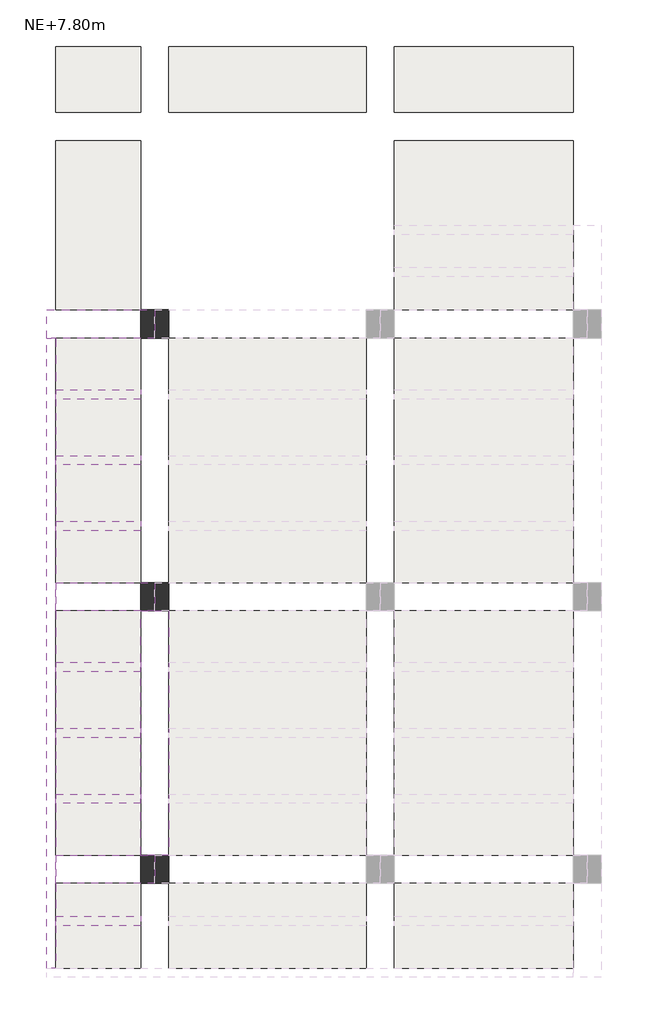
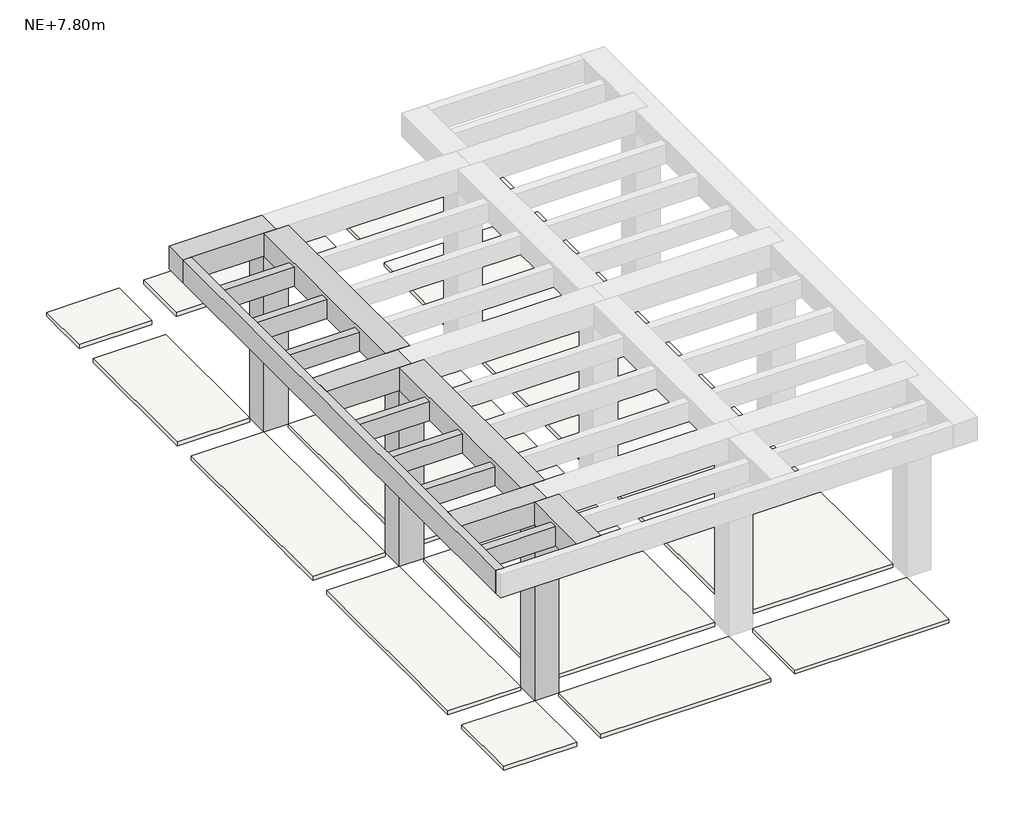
# One storey, part 1 of 2: 12 beams, 3 columns, 1 slab.
"""IFC4 building model written with IfcOpenShell, lengths in millimetres."""

from ifc_helpers import new_model, si_unit, frame, origin, place, context, project, spatial, polyline, outline, extrude, faceted_brep, element, save

model = new_model("IFC4")

# Units and contexts
model_context = context("Model", 3, world=origin())
ifc_project = project(units=[si_unit("LENGTHUNIT", "METRE", prefix="MILLI")], contexts=[model_context])

# Site, building, storey
site = spatial("IfcSite", under=ifc_project)
building = spatial("IfcBuilding", under=site)
storey = spatial("IfcBuildingStorey", under=building, Name="NE+7.80m", Elevation=7800.0)

# Beams
placement = place(None, origin())
element("IfcBeam", 1, ObjectType="Hormigón-Viga rectangular : VA (0.30x0.30m)", at=placement, inside=storey, context=model_context, shape_type="Brep", body=[
    faceted_brep([(-897.6811082, -1337.1867862, 10400.0), (-897.6811082, -1037.1867862, 10400.0), (-2047.6811082, -1037.1867862, 10400.0), (-2047.6811082, -1337.1867862, 10400.0), (-1947.6811082, -1337.1867862, 10400.0), (-1047.6811082, -1337.1867862, 10400.0), (-897.6811082, -1037.1867862, 10100.0), (-2047.6811082, -1037.1867862, 10100.0), (-897.6811082, -1337.1867862, 10100.0), (-1047.6811082, -1337.1867862, 10100.0), (-1947.6811082, -1337.1867862, 10100.0), (-2047.6811082, -1337.1867862, 10100.0)], [[[0, 1, 2, 3, 4, 5]], [[1, 6, 7, 2]], [[6, 8, 9, 10, 11, 7]], [[8, 0, 5, 4, 3, 11, 10, 9]], [[0, 8, 6, 1]], [[3, 2, 7, 11]]]),
])
element("IfcBeam", 2, ObjectType="Hormigón-Viga rectangular : VA (0.30x0.30m)", at=placement, inside=storey, context=model_context, shape_type="Brep", body=[
    faceted_brep([(-897.6811082, -4237.1867862, 10400.0), (-897.6811082, -3937.1867862, 10400.0), (-1047.6811082, -3937.1867862, 10400.0), (-1947.6811082, -3937.1867862, 10400.0), (-1947.6811082, -4237.1867862, 10400.0), (-1047.6811082, -4237.1867862, 10400.0), (-897.6811082, -3937.1867862, 10100.0), (-1047.6811082, -3937.1867862, 10100.0), (-1947.6811082, -3937.1867862, 10100.0), (-1947.6811082, -3937.1867862, 10350.0), (-897.6811082, -4237.1867862, 10100.0), (-1047.6811082, -4237.1867862, 10100.0), (-1947.6811082, -4237.1867862, 10100.0), (-1947.6811082, -4237.1867862, 10350.0)], [[[0, 1, 2, 3, 4, 5]], [[1, 6, 7, 8, 9, 3, 2]], [[6, 10, 11, 12, 8, 7]], [[10, 0, 5, 4, 13, 12, 11]], [[0, 10, 6, 1]], [[4, 3, 9, 8, 12, 13]]]),
])
element("IfcBeam", 3, ObjectType="Hormigón-Viga rectangular : VA (0.30x0.30m)", at=placement, inside=storey, context=model_context, shape_type="Brep", body=[
    faceted_brep([(-897.6811082, -7137.1867862, 10400.0), (-897.6811082, -6837.1867862, 10400.0), (-1047.6811082, -6837.1867862, 10400.0), (-1947.6811082, -6837.1867862, 10400.0), (-1947.6811082, -7137.1867862, 10400.0), (-1047.6811082, -7137.1867862, 10400.0), (-897.6811082, -6837.1867862, 10100.0), (-1047.6811082, -6837.1867862, 10100.0), (-1947.6811082, -6837.1867862, 10100.0), (-1947.6811082, -6837.1867862, 10350.0), (-897.6811082, -7137.1867862, 10100.0), (-1047.6811082, -7137.1867862, 10100.0), (-1947.6811082, -7137.1867862, 10100.0), (-1947.6811082, -7137.1867862, 10350.0)], [[[0, 1, 2, 3, 4, 5]], [[1, 6, 7, 8, 9, 3, 2]], [[6, 10, 11, 12, 8, 7]], [[10, 0, 5, 4, 13, 12, 11]], [[0, 10, 6, 1]], [[4, 3, 9, 8, 12, 13]]]),
])
element("IfcBeam", 4, ObjectType="Hormigón-Viga rectangular : VA (0.30x0.30m)", at=placement, inside=storey, context=model_context, shape_type="Brep", body=[
    faceted_brep([(-747.6811082, -7137.1867862, 10400.0), (-897.6811082, -7137.1867862, 10400.0), (-1047.6811082, -7137.1867862, 10400.0), (-1047.6811082, -8037.1867862, 10400.0), (-747.6811082, -8037.1867862, 10400.0), (-747.6811082, -8037.1867862, 10350.0), (-747.6811082, -8037.1867862, 10100.0), (-747.6811082, -7587.1867862, 10100.0), (-747.6811082, -7487.1867862, 10100.0), (-747.6811082, -7137.1867862, 10100.0), (-747.6811082, -7137.1867862, 10350.0), (-1047.6811082, -7137.1867862, 10100.0), (-897.6811082, -7137.1867862, 10100.0), (-1047.6811082, -8037.1867862, 10100.0), (-1047.6811082, -7587.1867862, 10100.0), (-1047.6811082, -7487.1867862, 10100.0), (-1047.6811082, -7137.1867862, 10350.0), (-1047.6811082, -8037.1867862, 10350.0)], [[[0, 1, 2, 3, 4]], [[0, 4, 5, 6, 7, 8, 9, 10]], [[11, 12, 9, 8, 7, 6, 13, 14, 15]], [[3, 2, 16, 11, 15, 14, 13, 17]], [[2, 1, 0, 10, 9, 12, 11, 16]], [[4, 3, 17, 13, 6, 5]]]),
    faceted_brep([(-1047.6811082, -1337.1867862, 10400.0), (-897.6811082, -1337.1867862, 10400.0), (-747.6811082, -1337.1867862, 10400.0), (-747.6811082, -1337.1867862, 10350.0), (-747.6811082, -1337.1867862, 10100.0), (-897.6811082, -1337.1867862, 10100.0), (-1047.6811082, -1337.1867862, 10100.0), (-1047.6811082, -1337.1867862, 10350.0), (-747.6811082, -3937.1867862, 10400.0), (-897.6811082, -3937.1867862, 10400.0), (-1047.6811082, -3937.1867862, 10400.0), (-1047.6811082, -3937.1867862, 10350.0), (-1047.6811082, -3937.1867862, 10100.0), (-897.6811082, -3937.1867862, 10100.0), (-747.6811082, -3937.1867862, 10100.0), (-747.6811082, -3937.1867862, 10350.0), (-747.6811082, -3387.1867862, 10100.0), (-747.6811082, -3287.1867862, 10100.0), (-747.6811082, -2687.1867862, 10100.0), (-747.6811082, -2587.1867862, 10100.0), (-747.6811082, -1987.1867862, 10100.0), (-747.6811082, -1887.1867862, 10100.0), (-1047.6811082, -3387.1867862, 10100.0), (-1047.6811082, -3287.1867862, 10100.0), (-1047.6811082, -2687.1867862, 10100.0), (-1047.6811082, -2587.1867862, 10100.0), (-1047.6811082, -1987.1867862, 10100.0), (-1047.6811082, -1887.1867862, 10100.0)], [[[0, 1, 2, 3, 4, 5, 6, 7]], [[8, 9, 10, 11, 12, 13, 14, 15]], [[2, 8, 15, 14, 16, 17, 18, 19, 20, 21, 4, 3]], [[2, 1, 0, 10, 9, 8]], [[6, 5, 4, 21, 20, 19, 18, 17, 16, 14, 13, 12, 22, 23, 24, 25, 26, 27]], [[10, 0, 7, 6, 27, 26, 25, 24, 23, 22, 12, 11]]]),
    faceted_brep([(-1047.6811082, -4237.1867862, 10400.0), (-897.6811082, -4237.1867862, 10400.0), (-747.6811082, -4237.1867862, 10400.0), (-747.6811082, -4237.1867862, 10350.0), (-747.6811082, -4237.1867862, 10100.0), (-897.6811082, -4237.1867862, 10100.0), (-1047.6811082, -4237.1867862, 10100.0), (-1047.6811082, -4237.1867862, 10350.0), (-747.6811082, -6837.1867862, 10400.0), (-897.6811082, -6837.1867862, 10400.0), (-1047.6811082, -6837.1867862, 10400.0), (-1047.6811082, -6837.1867862, 10350.0), (-1047.6811082, -6837.1867862, 10100.0), (-897.6811082, -6837.1867862, 10100.0), (-747.6811082, -6837.1867862, 10100.0), (-747.6811082, -6837.1867862, 10350.0), (-747.6811082, -6287.1867862, 10100.0), (-747.6811082, -6187.1867862, 10100.0), (-747.6811082, -5587.1867862, 10100.0), (-747.6811082, -5487.1867862, 10100.0), (-747.6811082, -4887.1867862, 10100.0), (-747.6811082, -4787.1867862, 10100.0), (-1047.6811082, -6287.1867862, 10100.0), (-1047.6811082, -6187.1867862, 10100.0), (-1047.6811082, -5587.1867862, 10100.0), (-1047.6811082, -5487.1867862, 10100.0), (-1047.6811082, -4887.1867862, 10100.0), (-1047.6811082, -4787.1867862, 10100.0)], [[[0, 1, 2, 3, 4, 5, 6, 7]], [[8, 9, 10, 11, 12, 13, 14, 15]], [[2, 8, 15, 14, 16, 17, 18, 19, 20, 21, 4, 3]], [[2, 1, 0, 10, 9, 8]], [[6, 5, 4, 21, 20, 19, 18, 17, 16, 14, 13, 12, 22, 23, 24, 25, 26, 27]], [[10, 0, 7, 6, 27, 26, 25, 24, 23, 22, 12, 11]]]),
])
element("IfcBeam", 5, ObjectType="Hormigón-Viga rectangular : VB (0.10x0.30m)", at=placement, inside=storey, context=model_context, shape_type="Brep", body=[
    faceted_brep([(-1947.6811082, -1337.1867862, 10400.0), (-2047.6811082, -1337.1867862, 10400.0), (-2047.6811082, -8037.1867862, 10400.0), (-1947.6811082, -8037.1867862, 10400.0), (-1947.6811082, -7137.1867862, 10400.0), (-1947.6811082, -6837.1867862, 10400.0), (-1947.6811082, -4237.1867862, 10400.0), (-1947.6811082, -3937.1867862, 10400.0), (-1947.6811082, -1337.1867862, 10100.0), (-1947.6811082, -1337.1867862, 10350.0), (-1947.6811082, -8037.1867862, 10350.0), (-1947.6811082, -8037.1867862, 10100.0), (-1947.6811082, -7587.1867862, 10100.0), (-1947.6811082, -7487.1867862, 10100.0), (-1947.6811082, -7137.1867862, 10100.0), (-1947.6811082, -6837.1867862, 10100.0), (-1947.6811082, -6287.1867862, 10100.0), (-1947.6811082, -6187.1867862, 10100.0), (-1947.6811082, -5587.1867862, 10100.0), (-1947.6811082, -5487.1867862, 10100.0), (-1947.6811082, -4887.1867862, 10100.0), (-1947.6811082, -4787.1867862, 10100.0), (-1947.6811082, -4237.1867862, 10100.0), (-1947.6811082, -3937.1867862, 10100.0), (-1947.6811082, -3387.1867862, 10100.0), (-1947.6811082, -3287.1867862, 10100.0), (-1947.6811082, -2687.1867862, 10100.0), (-1947.6811082, -2587.1867862, 10100.0), (-1947.6811082, -1987.1867862, 10100.0), (-1947.6811082, -1887.1867862, 10100.0), (-2047.6811082, -1337.1867862, 10100.0), (-2047.6811082, -8037.1867862, 10100.0)], [[[0, 1, 2, 3, 4, 5, 6, 7]], [[8, 9, 0, 7, 6, 5, 4, 3, 10, 11, 12, 13, 14, 15, 16, 17, 18, 19, 20, 21, 22, 23, 24, 25, 26, 27, 28, 29]], [[30, 8, 29, 28, 27, 26, 25, 24, 23, 22, 21, 20, 19, 18, 17, 16, 15, 14, 13, 12, 11, 31]], [[1, 30, 31, 2]], [[1, 0, 9, 8, 30]], [[3, 2, 31, 11, 10]]]),
])
element("IfcBeam", 6, ObjectType="Hormigón-Viga rectangular : VT (0.10x0.30m)", at=placement, inside=storey, context=model_context, shape_type="SweptSolid", body=[
    extrude(outline(polyline([(-1047.6811082, -6187.1867862), (-1047.6811082, -6287.1867862), (-1947.6811082, -6287.1867862), (-1947.6811082, -6187.1867862), (-1047.6811082, -6187.1867862)])), frame((0.0, 0.0, 10100.0), z_axis=(0.0, 0.0, 1.0), x_axis=(1.0, 0.0, 0.0)), (0.0, 0.0, 1.0), 250.0),
])
element("IfcBeam", 7, ObjectType="Hormigón-Viga rectangular : VT (0.10x0.30m)", at=placement, inside=storey, context=model_context, shape_type="SweptSolid", body=[
    extrude(outline(polyline([(-1047.6811082, -5487.1867862), (-1047.6811082, -5587.1867862), (-1947.6811082, -5587.1867862), (-1947.6811082, -5487.1867862), (-1047.6811082, -5487.1867862)])), frame((0.0, 0.0, 10100.0), z_axis=(0.0, 0.0, 1.0), x_axis=(1.0, 0.0, 0.0)), (0.0, 0.0, 1.0), 250.0),
])
element("IfcBeam", 8, ObjectType="Hormigón-Viga rectangular : VT (0.10x0.30m)", at=placement, inside=storey, context=model_context, shape_type="SweptSolid", body=[
    extrude(outline(polyline([(-1047.6811082, -4787.1867862), (-1047.6811082, -4887.1867862), (-1947.6811082, -4887.1867862), (-1947.6811082, -4787.1867862), (-1047.6811082, -4787.1867862)])), frame((0.0, 0.0, 10100.0), z_axis=(0.0, 0.0, 1.0), x_axis=(1.0, 0.0, 0.0)), (0.0, 0.0, 1.0), 250.0),
])
element("IfcBeam", 9, ObjectType="Hormigón-Viga rectangular : VT (0.10x0.30m)", at=placement, inside=storey, context=model_context, shape_type="SweptSolid", body=[
    extrude(outline(polyline([(-1047.6811082, -3287.1867862), (-1047.6811082, -3387.1867862), (-1947.6811082, -3387.1867862), (-1947.6811082, -3287.1867862), (-1047.6811082, -3287.1867862)])), frame((0.0, 0.0, 10100.0), z_axis=(0.0, 0.0, 1.0), x_axis=(1.0, 0.0, 0.0)), (0.0, 0.0, 1.0), 250.0),
])
element("IfcBeam", 10, ObjectType="Hormigón-Viga rectangular : VT (0.10x0.30m)", at=placement, inside=storey, context=model_context, shape_type="SweptSolid", body=[
    extrude(outline(polyline([(-1047.6811082, -2587.1867862), (-1047.6811082, -2687.1867862), (-1947.6811082, -2687.1867862), (-1947.6811082, -2587.1867862), (-1047.6811082, -2587.1867862)])), frame((0.0, 0.0, 10100.0), z_axis=(0.0, 0.0, 1.0), x_axis=(1.0, 0.0, 0.0)), (0.0, 0.0, 1.0), 250.0),
])
element("IfcBeam", 11, ObjectType="Hormigón-Viga rectangular : VT (0.10x0.30m)", at=placement, inside=storey, context=model_context, shape_type="SweptSolid", body=[
    extrude(outline(polyline([(-1047.6811082, -1887.1867862), (-1047.6811082, -1987.1867862), (-1947.6811082, -1987.1867862), (-1947.6811082, -1887.1867862), (-1047.6811082, -1887.1867862)])), frame((0.0, 0.0, 10100.0), z_axis=(0.0, 0.0, 1.0), x_axis=(1.0, 0.0, 0.0)), (0.0, 0.0, 1.0), 250.0),
])
element("IfcBeam", 12, ObjectType="Hormigón-Viga rectangular : VT (0.10x0.30m)", at=placement, inside=storey, context=model_context, shape_type="SweptSolid", body=[
    extrude(outline(polyline([(-1047.6811082, -7487.1867862), (-1047.6811082, -7587.1867862), (-1947.6811082, -7587.1867862), (-1947.6811082, -7487.1867862), (-1047.6811082, -7487.1867862)])), frame((0.0, 0.0, 10100.0), z_axis=(0.0, 0.0, 1.0), x_axis=(1.0, 0.0, 0.0)), (0.0, 0.0, 1.0), 250.0),
])

# Columns
element("IfcColumn", 13, ObjectType="Hormigón-Rectangular-Pilar : C1 (0.30x0.30m)", at=placement, inside=storey, context=model_context, shape_type="SweptSolid", body=[
    extrude(outline(polyline([(-747.6811082, -1037.1867862), (-747.6811082, -1337.1867862), (-1047.6811082, -1337.1867862), (-1047.6811082, -1037.1867862), (-747.6811082, -1037.1867862)])), frame((0.0, 0.0, 7800.0), z_axis=(0.0, 0.0, 1.0), x_axis=(1.0, 0.0, 0.0)), (0.0, 0.0, 1.0), 2300.0),
])
element("IfcColumn", 14, ObjectType="Hormigón-Rectangular-Pilar : C1 (0.30x0.30m)", at=placement, inside=storey, context=model_context, shape_type="SweptSolid", body=[
    extrude(outline(polyline([(-747.6811082, -3937.1867862), (-747.6811082, -4237.1867862), (-1047.6811082, -4237.1867862), (-1047.6811082, -3937.1867862), (-747.6811082, -3937.1867862)])), frame((0.0, 0.0, 7800.0), z_axis=(0.0, 0.0, 1.0), x_axis=(1.0, 0.0, 0.0)), (0.0, 0.0, 1.0), 2300.0),
])
element("IfcColumn", 15, ObjectType="Hormigón-Rectangular-Pilar : C1 (0.30x0.30m)", at=placement, inside=storey, context=model_context, shape_type="SweptSolid", body=[
    extrude(outline(polyline([(-747.6811082, -6837.1867862), (-747.6811082, -7137.1867862), (-1047.6811082, -7137.1867862), (-1047.6811082, -6837.1867862), (-747.6811082, -6837.1867862)])), frame((0.0, 0.0, 7800.0), z_axis=(0.0, 0.0, 1.0), x_axis=(1.0, 0.0, 0.0)), (0.0, 0.0, 1.0), 2300.0),
])

# Slab
element("IfcSlab", 16, ObjectType="Torta superior e=5cm", at=placement, inside=storey, context=model_context, shape_type="Brep", body=[
    faceted_brep([(3552.3188918, 1762.8132138, 7750.0), (3552.3188918, 1412.8132138, 7750.0), (3552.3188918, 1312.8132138, 7750.0), (3552.3188918, 1062.8132138, 7750.0), (1652.3188918, 1062.8132138, 7750.0), (1652.3188918, 1312.8132138, 7750.0), (1652.3188918, 1412.8132138, 7750.0), (1652.3188918, 1762.8132138, 7750.0), (3552.3188918, 1762.8132138, 7800.0), (1652.3188918, 1762.8132138, 7800.0), (1652.3188918, 1062.8132138, 7800.0), (3552.3188918, 1062.8132138, 7800.0)], [[[0, 1, 2, 3, 4, 5, 6, 7]], [[8, 9, 10, 11]], [[3, 2, 1, 0, 8, 11]], [[4, 3, 11, 10]], [[7, 6, 5, 4, 10, 9]], [[0, 7, 9, 8]]]),
    faceted_brep([(1352.3188918, 1762.8132138, 7750.0), (1352.3188918, 1412.8132138, 7750.0), (1352.3188918, 1312.8132138, 7750.0), (1352.3188918, 1062.8132138, 7750.0), (-747.6811082, 1062.8132138, 7750.0), (-747.6811082, 1312.8132138, 7750.0), (-747.6811082, 1412.8132138, 7750.0), (-747.6811082, 1762.8132138, 7750.0), (1352.3188918, 1762.8132138, 7800.0), (-747.6811082, 1762.8132138, 7800.0), (-747.6811082, 1062.8132138, 7800.0), (1352.3188918, 1062.8132138, 7800.0)], [[[0, 1, 2, 3, 4, 5, 6, 7]], [[8, 9, 10, 11]], [[3, 2, 1, 0, 8, 11]], [[4, 3, 11, 10]], [[7, 6, 5, 4, 10, 9]], [[0, 7, 9, 8]]]),
    faceted_brep([(-1047.6811082, 1762.8132138, 7750.0), (-1047.6811082, 1412.8132138, 7750.0), (-1047.6811082, 1312.8132138, 7750.0), (-1047.6811082, 1062.8132138, 7750.0), (-1947.6811082, 1062.8132138, 7750.0), (-1947.6811082, 1312.8132138, 7750.0), (-1947.6811082, 1412.8132138, 7750.0), (-1947.6811082, 1762.8132138, 7750.0), (-1047.6811082, 1762.8132138, 7800.0), (-1947.6811082, 1762.8132138, 7800.0), (-1947.6811082, 1062.8132138, 7800.0), (-1047.6811082, 1062.8132138, 7800.0)], [[[0, 1, 2, 3, 4, 5, 6, 7]], [[8, 9, 10, 11]], [[3, 2, 1, 0, 8, 11]], [[4, 3, 11, 10]], [[7, 6, 5, 4, 10, 9]], [[0, 7, 9, 8]]]),
    faceted_brep([(-1047.6811082, 762.8132138, 7750.0), (-1047.6811082, 612.8132138, 7750.0), (-1047.6811082, 512.8132138, 7750.0), (-1047.6811082, -87.1867862, 7750.0), (-1047.6811082, -187.1867862, 7750.0), (-1047.6811082, -787.1867862, 7750.0), (-1047.6811082, -887.1867862, 7750.0), (-1047.6811082, -1037.1867862, 7750.0), (-1947.6811082, -1037.1867862, 7750.0), (-1947.6811082, -887.1867862, 7750.0), (-1947.6811082, -787.1867862, 7750.0), (-1947.6811082, -187.1867862, 7750.0), (-1947.6811082, -87.1867862, 7750.0), (-1947.6811082, 512.8132138, 7750.0), (-1947.6811082, 612.8132138, 7750.0), (-1947.6811082, 762.8132138, 7750.0), (-1047.6811082, 762.8132138, 7800.0), (-1947.6811082, 762.8132138, 7800.0), (-1947.6811082, -1037.1867862, 7800.0), (-1047.6811082, -1037.1867862, 7800.0)], [[[0, 1, 2, 3, 4, 5, 6, 7, 8, 9, 10, 11, 12, 13, 14, 15]], [[16, 17, 18, 19]], [[7, 6, 5, 4, 3, 2, 1, 0, 16, 19]], [[8, 7, 19, 18]], [[15, 14, 13, 12, 11, 10, 9, 8, 18, 17]], [[0, 15, 17, 16]]]),
    faceted_brep([(3552.3188918, 762.8132138, 7750.0), (3552.3188918, 612.8132138, 7750.0), (3552.3188918, 512.8132138, 7750.0), (3552.3188918, -87.1867862, 7750.0), (3552.3188918, -187.1867862, 7750.0), (3552.3188918, -787.1867862, 7750.0), (3552.3188918, -887.1867862, 7750.0), (3552.3188918, -1037.1867862, 7750.0), (1652.3188918, -1037.1867862, 7750.0), (1652.3188918, -887.1867862, 7750.0), (1652.3188918, -787.1867862, 7750.0), (1652.3188918, -187.1867862, 7750.0), (1652.3188918, -87.1867862, 7750.0), (1652.3188918, 512.8132138, 7750.0), (1652.3188918, 612.8132138, 7750.0), (1652.3188918, 762.8132138, 7750.0), (3552.3188918, 762.8132138, 7800.0), (1652.3188918, 762.8132138, 7800.0), (1652.3188918, -1037.1867862, 7800.0), (3552.3188918, -1037.1867862, 7800.0)], [[[0, 1, 2, 3, 4, 5, 6, 7, 8, 9, 10, 11, 12, 13, 14, 15]], [[16, 17, 18, 19]], [[7, 6, 5, 4, 3, 2, 1, 0, 16, 19]], [[8, 7, 19, 18]], [[15, 14, 13, 12, 11, 10, 9, 8, 18, 17]], [[0, 15, 17, 16]]]),
    faceted_brep([(3552.3188918, -1337.1867862, 7750.0), (3552.3188918, -1887.1867862, 7750.0), (3552.3188918, -1987.1867862, 7750.0), (3552.3188918, -2587.1867862, 7750.0), (3552.3188918, -2687.1867862, 7750.0), (3552.3188918, -3287.1867862, 7750.0), (3552.3188918, -3387.1867862, 7750.0), (3552.3188918, -3937.1867862, 7750.0), (1652.3188918, -3937.1867862, 7750.0), (1652.3188918, -3387.1867862, 7750.0), (1652.3188918, -3287.1867862, 7750.0), (1652.3188918, -2687.1867862, 7750.0), (1652.3188918, -2587.1867862, 7750.0), (1652.3188918, -1987.1867862, 7750.0), (1652.3188918, -1887.1867862, 7750.0), (1652.3188918, -1337.1867862, 7750.0), (3552.3188918, -1337.1867862, 7800.0), (1652.3188918, -1337.1867862, 7800.0), (1652.3188918, -3937.1867862, 7800.0), (3552.3188918, -3937.1867862, 7800.0)], [[[0, 1, 2, 3, 4, 5, 6, 7, 8, 9, 10, 11, 12, 13, 14, 15]], [[16, 17, 18, 19]], [[7, 6, 5, 4, 3, 2, 1, 0, 16, 19]], [[8, 7, 19, 18]], [[15, 14, 13, 12, 11, 10, 9, 8, 18, 17]], [[0, 15, 17, 16]]]),
    faceted_brep([(1352.3188918, -1337.1867862, 7750.0), (1352.3188918, -1887.1867862, 7750.0), (1352.3188918, -1987.1867862, 7750.0), (1352.3188918, -2587.1867862, 7750.0), (1352.3188918, -2687.1867862, 7750.0), (1352.3188918, -3287.1867862, 7750.0), (1352.3188918, -3387.1867862, 7750.0), (1352.3188918, -3937.1867862, 7750.0), (-747.6811082, -3937.1867862, 7750.0), (-747.6811082, -3387.1867862, 7750.0), (-747.6811082, -3287.1867862, 7750.0), (-747.6811082, -2687.1867862, 7750.0), (-747.6811082, -2587.1867862, 7750.0), (-747.6811082, -1987.1867862, 7750.0), (-747.6811082, -1887.1867862, 7750.0), (-747.6811082, -1337.1867862, 7750.0), (1352.3188918, -1337.1867862, 7800.0), (-747.6811082, -1337.1867862, 7800.0), (-747.6811082, -3937.1867862, 7800.0), (1352.3188918, -3937.1867862, 7800.0)], [[[0, 1, 2, 3, 4, 5, 6, 7, 8, 9, 10, 11, 12, 13, 14, 15]], [[16, 17, 18, 19]], [[7, 6, 5, 4, 3, 2, 1, 0, 16, 19]], [[8, 7, 19, 18]], [[15, 14, 13, 12, 11, 10, 9, 8, 18, 17]], [[0, 15, 17, 16]]]),
    faceted_brep([(-1047.6811082, -1337.1867862, 7750.0), (-1047.6811082, -1887.1867862, 7750.0), (-1047.6811082, -1987.1867862, 7750.0), (-1047.6811082, -2587.1867862, 7750.0), (-1047.6811082, -2687.1867862, 7750.0), (-1047.6811082, -3287.1867862, 7750.0), (-1047.6811082, -3387.1867862, 7750.0), (-1047.6811082, -3937.1867862, 7750.0), (-1947.6811082, -3937.1867862, 7750.0), (-1947.6811082, -3387.1867862, 7750.0), (-1947.6811082, -3287.1867862, 7750.0), (-1947.6811082, -2687.1867862, 7750.0), (-1947.6811082, -2587.1867862, 7750.0), (-1947.6811082, -1987.1867862, 7750.0), (-1947.6811082, -1887.1867862, 7750.0), (-1947.6811082, -1337.1867862, 7750.0), (-1047.6811082, -1337.1867862, 7800.0), (-1947.6811082, -1337.1867862, 7800.0), (-1947.6811082, -3937.1867862, 7800.0), (-1047.6811082, -3937.1867862, 7800.0)], [[[0, 1, 2, 3, 4, 5, 6, 7, 8, 9, 10, 11, 12, 13, 14, 15]], [[16, 17, 18, 19]], [[7, 6, 5, 4, 3, 2, 1, 0, 16, 19]], [[8, 7, 19, 18]], [[15, 14, 13, 12, 11, 10, 9, 8, 18, 17]], [[0, 15, 17, 16]]]),
    faceted_brep([(-1047.6811082, -4237.1867862, 7750.0), (-1047.6811082, -4787.1867862, 7750.0), (-1047.6811082, -4887.1867862, 7750.0), (-1047.6811082, -5487.1867862, 7750.0), (-1047.6811082, -5587.1867862, 7750.0), (-1047.6811082, -6187.1867862, 7750.0), (-1047.6811082, -6287.1867862, 7750.0), (-1047.6811082, -6837.1867862, 7750.0), (-1947.6811082, -6837.1867862, 7750.0), (-1947.6811082, -6287.1867862, 7750.0), (-1947.6811082, -6187.1867862, 7750.0), (-1947.6811082, -5587.1867862, 7750.0), (-1947.6811082, -5487.1867862, 7750.0), (-1947.6811082, -4887.1867862, 7750.0), (-1947.6811082, -4787.1867862, 7750.0), (-1947.6811082, -4237.1867862, 7750.0), (-1047.6811082, -4237.1867862, 7800.0), (-1947.6811082, -4237.1867862, 7800.0), (-1947.6811082, -6837.1867862, 7800.0), (-1047.6811082, -6837.1867862, 7800.0)], [[[0, 1, 2, 3, 4, 5, 6, 7, 8, 9, 10, 11, 12, 13, 14, 15]], [[16, 17, 18, 19]], [[7, 6, 5, 4, 3, 2, 1, 0, 16, 19]], [[8, 7, 19, 18]], [[15, 14, 13, 12, 11, 10, 9, 8, 18, 17]], [[0, 15, 17, 16]]]),
    faceted_brep([(1352.3188918, -4237.1867862, 7750.0), (1352.3188918, -4787.1867862, 7750.0), (1352.3188918, -4887.1867862, 7750.0), (1352.3188918, -5487.1867862, 7750.0), (1352.3188918, -5587.1867862, 7750.0), (1352.3188918, -6187.1867862, 7750.0), (1352.3188918, -6287.1867862, 7750.0), (1352.3188918, -6837.1867862, 7750.0), (-747.6811082, -6837.1867862, 7750.0), (-747.6811082, -6287.1867862, 7750.0), (-747.6811082, -6187.1867862, 7750.0), (-747.6811082, -5587.1867862, 7750.0), (-747.6811082, -5487.1867862, 7750.0), (-747.6811082, -4887.1867862, 7750.0), (-747.6811082, -4787.1867862, 7750.0), (-747.6811082, -4237.1867862, 7750.0), (1352.3188918, -4237.1867862, 7800.0), (-747.6811082, -4237.1867862, 7800.0), (-747.6811082, -6837.1867862, 7800.0), (1352.3188918, -6837.1867862, 7800.0)], [[[0, 1, 2, 3, 4, 5, 6, 7, 8, 9, 10, 11, 12, 13, 14, 15]], [[16, 17, 18, 19]], [[7, 6, 5, 4, 3, 2, 1, 0, 16, 19]], [[8, 7, 19, 18]], [[15, 14, 13, 12, 11, 10, 9, 8, 18, 17]], [[0, 15, 17, 16]]]),
    faceted_brep([(3552.3188918, -4237.1867862, 7750.0), (3552.3188918, -4787.1867862, 7750.0), (3552.3188918, -4887.1867862, 7750.0), (3552.3188918, -5487.1867862, 7750.0), (3552.3188918, -5587.1867862, 7750.0), (3552.3188918, -6187.1867862, 7750.0), (3552.3188918, -6287.1867862, 7750.0), (3552.3188918, -6837.1867862, 7750.0), (1652.3188918, -6837.1867862, 7750.0), (1652.3188918, -6287.1867862, 7750.0), (1652.3188918, -6187.1867862, 7750.0), (1652.3188918, -5587.1867862, 7750.0), (1652.3188918, -5487.1867862, 7750.0), (1652.3188918, -4887.1867862, 7750.0), (1652.3188918, -4787.1867862, 7750.0), (1652.3188918, -4237.1867862, 7750.0), (3552.3188918, -4237.1867862, 7800.0), (1652.3188918, -4237.1867862, 7800.0), (1652.3188918, -6837.1867862, 7800.0), (3552.3188918, -6837.1867862, 7800.0)], [[[0, 1, 2, 3, 4, 5, 6, 7, 8, 9, 10, 11, 12, 13, 14, 15]], [[16, 17, 18, 19]], [[7, 6, 5, 4, 3, 2, 1, 0, 16, 19]], [[8, 7, 19, 18]], [[15, 14, 13, 12, 11, 10, 9, 8, 18, 17]], [[0, 15, 17, 16]]]),
    faceted_brep([(3552.3188918, -7137.1867862, 7750.0), (3552.3188918, -7487.1867862, 7750.0), (3552.3188918, -7587.1867862, 7750.0), (3552.3188918, -8037.1867862, 7750.0), (1652.3188918, -8037.1867862, 7750.0), (1652.3188918, -7587.1867862, 7750.0), (1652.3188918, -7487.1867862, 7750.0), (1652.3188918, -7137.1867862, 7750.0), (3552.3188918, -7137.1867862, 7800.0), (1652.3188918, -7137.1867862, 7800.0), (1652.3188918, -8037.1867862, 7800.0), (3552.3188918, -8037.1867862, 7800.0)], [[[0, 1, 2, 3, 4, 5, 6, 7]], [[8, 9, 10, 11]], [[3, 2, 1, 0, 8, 11]], [[4, 3, 11, 10]], [[7, 6, 5, 4, 10, 9]], [[0, 7, 9, 8]]]),
    faceted_brep([(-1047.6811082, -7137.1867862, 7750.0), (-1047.6811082, -7487.1867862, 7750.0), (-1047.6811082, -7587.1867862, 7750.0), (-1047.6811082, -8037.1867862, 7750.0), (-1947.6811082, -8037.1867862, 7750.0), (-1947.6811082, -7587.1867862, 7750.0), (-1947.6811082, -7487.1867862, 7750.0), (-1947.6811082, -7137.1867862, 7750.0), (-1047.6811082, -7137.1867862, 7800.0), (-1947.6811082, -7137.1867862, 7800.0), (-1947.6811082, -8037.1867862, 7800.0), (-1047.6811082, -8037.1867862, 7800.0)], [[[0, 1, 2, 3, 4, 5, 6, 7]], [[8, 9, 10, 11]], [[3, 2, 1, 0, 8, 11]], [[4, 3, 11, 10]], [[7, 6, 5, 4, 10, 9]], [[0, 7, 9, 8]]]),
    faceted_brep([(1352.3188918, -7137.1867862, 7750.0), (1352.3188918, -7487.1867862, 7750.0), (1352.3188918, -7587.1867862, 7750.0), (1352.3188918, -8037.1867862, 7750.0), (-747.6811082, -8037.1867862, 7750.0), (-747.6811082, -7587.1867862, 7750.0), (-747.6811082, -7487.1867862, 7750.0), (-747.6811082, -7137.1867862, 7750.0), (1352.3188918, -7137.1867862, 7800.0), (-747.6811082, -7137.1867862, 7800.0), (-747.6811082, -8037.1867862, 7800.0), (1352.3188918, -8037.1867862, 7800.0)], [[[0, 1, 2, 3, 4, 5, 6, 7]], [[8, 9, 10, 11]], [[3, 2, 1, 0, 8, 11]], [[4, 3, 11, 10]], [[7, 6, 5, 4, 10, 9]], [[0, 7, 9, 8]]]),
])

save(model, "model.ifc")
